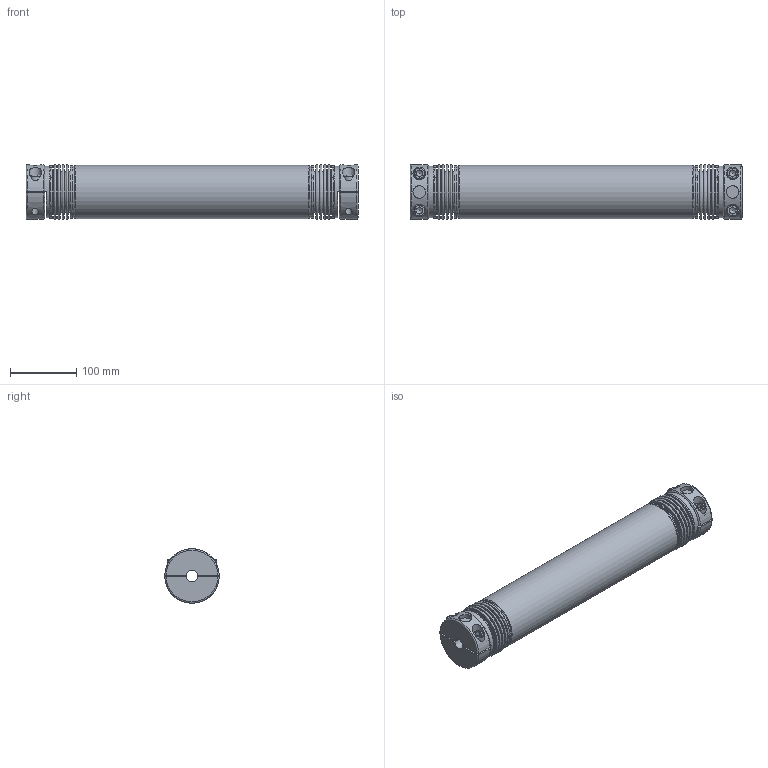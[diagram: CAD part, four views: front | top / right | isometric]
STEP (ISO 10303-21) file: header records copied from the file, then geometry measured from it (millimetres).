
FILE_DESCRIPTION( ( 'Unknown' ), '1' );
FILE_NAME( 'F:/PR/14_Step-Dateien/WD-HD/WD-HD 200 - L=0,5m.stp', 'Unknown', ( 'Unknown' ), ( 'Unknown' ), 'PSStep 10.1', 'Unknown', ' ' );
FILE_SCHEMA( ( 'AUTOMOTIVE_DESIGN { 1 0 10303 214 1 1 1 1 }' ) );
Length unit declared in the file: millimetre
Products named in the file (1): WD-HD 200
Bounding box: 500 x 82 x 82 mm (x, y, z)
Volume: 850175.4 mm3; surface area: 359952.4 mm2
Topology: 1 solids, 6 shells, 263 faces, 531 edges, 347 vertices
Faces by surface type: plane 143, torus 60, cylinder 53, cone 7
Full cylindrical faces by diameter (mm): 10.2 x4, 12 x4, 12.5 x4, 13 x4, 18 x4, 19 x6, 42 x2, 48 x2, 58.5 x2, 74 x1, 77.3 x7, 78.5 x4, 80 x1
Entity records: 9284 total; most frequent: CARTESIAN_POINT 2078, DIRECTION 1118, ORIENTED_EDGE 786, AXIS2_PLACEMENT_3D 487, EDGE_LOOP 450, EDGE_CURVE 393, FACE_OUTER_BOUND 360, VERTEX_POINT 317
